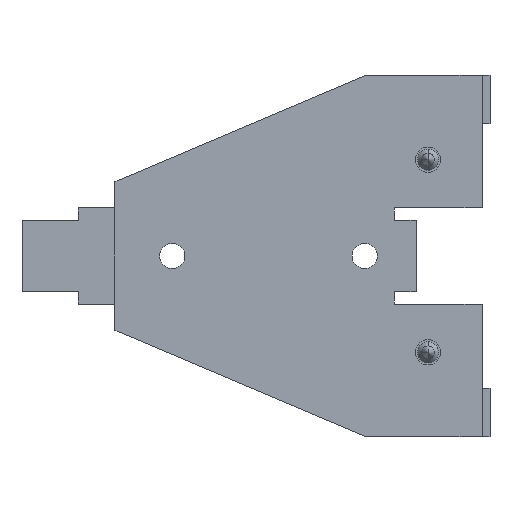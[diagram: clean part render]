
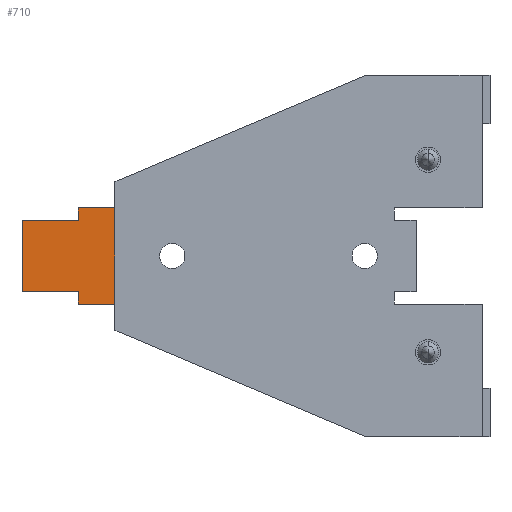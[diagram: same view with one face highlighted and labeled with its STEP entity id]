
A CAD part, left-side view. The second image highlights one B-rep face of the part: STEP entity #710.
In plain terms, the highlighted planar face has unit normal (-1, 0, 0).
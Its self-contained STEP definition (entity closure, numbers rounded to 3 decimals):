
#97 = EDGE_CURVE ( 'NONE', #3534, #3533, #1772, .T. ) ;
#103 = EDGE_CURVE ( 'NONE', #3593, #3592, #1780, .T. ) ;
#230 = EDGE_CURVE ( 'NONE', #3592, #3534, #2009, .T. ) ;
#276 = EDGE_CURVE ( 'NONE', #3572, #3533, #2096, .T. ) ;
#371 = EDGE_CURVE ( 'NONE', #3593, #3676, #2201, .T. ) ;
#448 = EDGE_CURVE ( 'NONE', #3572, #3674, #2241, .T. ) ;
#482 = EDGE_CURVE ( 'NONE', #3676, #3673, #2253, .T. ) ;
#547 = AXIS2_PLACEMENT_3D ( 'NONE', #2695, #2701, #2702 ) ;
#593 = EDGE_CURVE ( 'NONE', #3674, #3673, #2308, .T. ) ;
#710 = ADVANCED_FACE ( 'NONE', ( #3259 ), #2692, .F. ) ;
#1418 = ORIENTED_EDGE ( 'NONE', *, *, #103, .T. ) ;
#1419 = ORIENTED_EDGE ( 'NONE', *, *, #230, .T. ) ;
#1420 = ORIENTED_EDGE ( 'NONE', *, *, #97, .T. ) ;
#1421 = ORIENTED_EDGE ( 'NONE', *, *, #276, .F. ) ;
#1422 = ORIENTED_EDGE ( 'NONE', *, *, #448, .T. ) ;
#1423 = ORIENTED_EDGE ( 'NONE', *, *, #593, .T. ) ;
#1424 = ORIENTED_EDGE ( 'NONE', *, *, #482, .F. ) ;
#1425 = ORIENTED_EDGE ( 'NONE', *, *, #371, .F. ) ;
#1772 = LINE ( 'NONE', #3963, #1773 ) ;
#1773 = VECTOR ( 'NONE', #3964, 1000. ) ;
#1780 = LINE ( 'NONE', #3966, #1784 ) ;
#1784 = VECTOR ( 'NONE', #3978, 1000. ) ;
#2009 = LINE ( 'NONE', #4260, #2010 ) ;
#2010 = VECTOR ( 'NONE', #4261, 1000. ) ;
#2096 = LINE ( 'NONE', #4356, #2097 ) ;
#2097 = VECTOR ( 'NONE', #4357, 1000. ) ;
#2201 = LINE ( 'NONE', #4487, #2202 ) ;
#2202 = VECTOR ( 'NONE', #4488, 1000. ) ;
#2241 = LINE ( 'NONE', #4527, #2242 ) ;
#2242 = VECTOR ( 'NONE', #4528, 1000. ) ;
#2253 = LINE ( 'NONE', #4539, #2254 ) ;
#2254 = VECTOR ( 'NONE', #4540, 1000. ) ;
#2308 = LINE ( 'NONE', #4601, #2309 ) ;
#2309 = VECTOR ( 'NONE', #4602, 1000. ) ;
#2692 = PLANE ( 'NONE',  #547 ) ;
#2695 = CARTESIAN_POINT ( 'NONE',  ( 1.5, 58.1, 30. ) ) ;
#2701 = DIRECTION ( 'NONE',  ( 1., 0., 0. ) ) ;
#2702 = DIRECTION ( 'NONE',  ( 0., 0., -1. ) ) ;
#2943 = CARTESIAN_POINT ( 'NONE',  ( 1.5, 67.45, -5.9 ) ) ;
#2944 = CARTESIAN_POINT ( 'NONE',  ( 1.5, 67.45, 5.9 ) ) ;
#2982 = CARTESIAN_POINT ( 'NONE',  ( 1.5, 58.1, -5.9 ) ) ;
#3002 = CARTESIAN_POINT ( 'NONE',  ( 1.5, 58.1, 5.9 ) ) ;
#3003 = CARTESIAN_POINT ( 'NONE',  ( 1.5, 58.1, 8. ) ) ;
#3083 = CARTESIAN_POINT ( 'NONE',  ( 1.5, 52., -8. ) ) ;
#3084 = CARTESIAN_POINT ( 'NONE',  ( 1.5, 58.1, -8. ) ) ;
#3086 = CARTESIAN_POINT ( 'NONE',  ( 1.5, 52., 8. ) ) ;
#3259 = FACE_OUTER_BOUND ( 'NONE', #3381, .T. ) ;
#3381 = EDGE_LOOP ( 'NONE', ( #1418, #1419, #1420, #1421, #1422, #1423, #1424, #1425 ) ) ;
#3533 = VERTEX_POINT ( 'NONE', #2943 ) ;
#3534 = VERTEX_POINT ( 'NONE', #2944 ) ;
#3572 = VERTEX_POINT ( 'NONE', #2982 ) ;
#3592 = VERTEX_POINT ( 'NONE', #3002 ) ;
#3593 = VERTEX_POINT ( 'NONE', #3003 ) ;
#3673 = VERTEX_POINT ( 'NONE', #3083 ) ;
#3674 = VERTEX_POINT ( 'NONE', #3084 ) ;
#3676 = VERTEX_POINT ( 'NONE', #3086 ) ;
#3963 = CARTESIAN_POINT ( 'NONE',  ( 1.5, 67.45, 15.37 ) ) ;
#3964 = DIRECTION ( 'NONE',  ( 0., 0., -1. ) ) ;
#3966 = CARTESIAN_POINT ( 'NONE',  ( 1.5, 58.1, 30. ) ) ;
#3978 = DIRECTION ( 'NONE',  ( 0., 0., -1. ) ) ;
#4260 = CARTESIAN_POINT ( 'NONE',  ( 1.5, 67.45, 5.9 ) ) ;
#4261 = DIRECTION ( 'NONE',  ( 0., 1., 0. ) ) ;
#4356 = CARTESIAN_POINT ( 'NONE',  ( 1.5, 67.45, -5.9 ) ) ;
#4357 = DIRECTION ( 'NONE',  ( 0., 1., 0. ) ) ;
#4487 = CARTESIAN_POINT ( 'NONE',  ( 1.5, 52., 8. ) ) ;
#4488 = DIRECTION ( 'NONE',  ( 0., -1., 0. ) ) ;
#4527 = CARTESIAN_POINT ( 'NONE',  ( 1.5, 58.1, 30. ) ) ;
#4528 = DIRECTION ( 'NONE',  ( 0., 0., -1. ) ) ;
#4539 = CARTESIAN_POINT ( 'NONE',  ( 1.5, 52., 30. ) ) ;
#4540 = DIRECTION ( 'NONE',  ( 0., 0., -1. ) ) ;
#4601 = CARTESIAN_POINT ( 'NONE',  ( 1.5, 58.1, -8. ) ) ;
#4602 = DIRECTION ( 'NONE',  ( 0., -1., 0. ) ) ;
